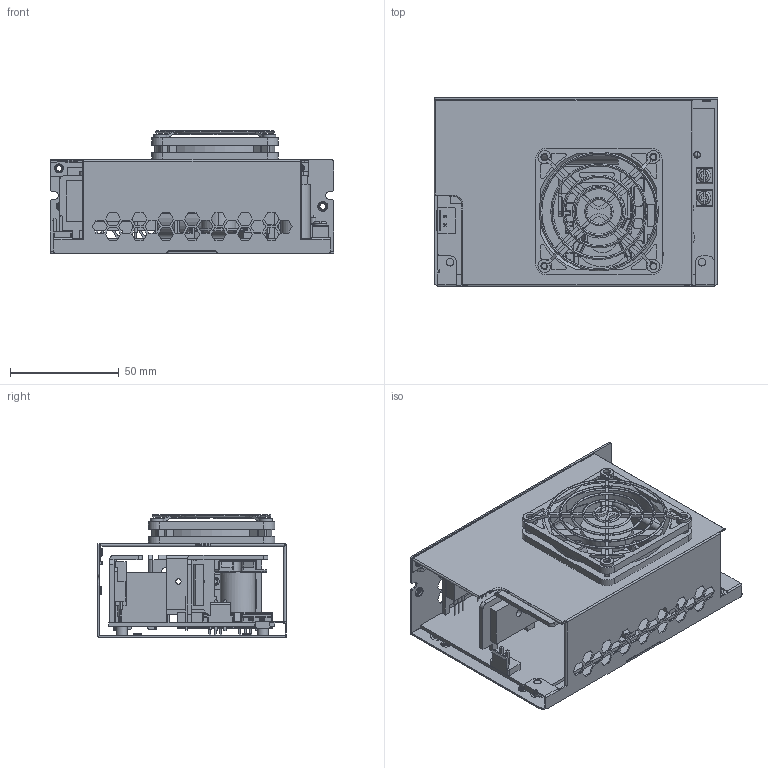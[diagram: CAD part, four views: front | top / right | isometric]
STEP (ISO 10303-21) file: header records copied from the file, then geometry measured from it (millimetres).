
FILE_DESCRIPTION(('Creo Elements/Direct Modeling STEP Export'),'2;1');
FILE_NAME('400TF.stp','2021-05-20T11:03:55',(''),(''),'PTC Creo Elements/Direct Modeling STEP processor for AP214 (Solid Model)','PTC Creo Elements/Direct Modeling 19.0E 27-Jun-2016 (C) Parametric Technology GmbH','');
FILE_SCHEMA(('AUTOMOTIVE_DESIGN { 1 0 10303 214 1 1 1 1 }'));
Length unit declared in the file: millimetre
Products named in the file (47): pin.1.1.2.1; HS029; HS-029; p2.1; pin.1.1.2; hs-sz035; HS028; PIN2-2; HS3; hs-sz027; 散热片; MOS15.5x10.1.1.1.1.1.1.1.1; MOS15.5x10.1.1.1.1.1.1.1.2.1; MOS; p1; R.1; JS1120R.1.1; p1.1; 8; JS1120R.1; a1; 555.1; 555.1.1; 555.1.2; MOSTO3P; C5; T1; 零件; 247B-T; 946A-D; M3-5-1; BASE; 247A-D; CASE; PCBB; pcbA; PCBC; PCB; fan_a.1.1; FAN_4715KL40WB30_2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
Assembly tree (52 placements, depth 6):
  400TF.stp
    RPS-400N
      FAN-ALL.1
        FAN_4715KL40WB30_2
        fan_a.1.1
      PCB
        PCBC
          PCBC
        pcbA
        PCBB
      CASE
        247A-D
          BASE
            M3-5-1  x4
            946A-D
        247B-T
      零件
        T1
          T1
        C5
        MOSTO3P
        555.1.2
        555.1.1
        555.1
        a1
          JS1120R.1
            8  x2
            p1.1
          JS1120R.1.1
        R.1  x2
        p1
        MOS
          MOS15.5x10.1.1.1.1.1.1.1.2.1  x2
          MOS15.5x10.1.1.1.1.1.1.1.1
      散热片
        hs-sz027
          HS3
          PIN2-2
        HS028
          pin.1.1.2
          p2.1
        hs-sz035
          pin.1.1.2
          p2.1
        HS-029
          HS029
          pin.1.1.2.1
Bounding box: 130 x 86.63 x 56.24 mm (x, y, z)
Volume: 92423.3 mm3; surface area: 128308.4 mm2
Topology: 34 solids, 35 shells, 2346 faces, 6283 edges, 3959 vertices
Faces by surface type: plane 1229, cylinder 767, torus 225, bspline 53, sphere 48, cone 24
Entity records: 77530 total; most frequent: CARTESIAN_POINT 20909, ORIENTED_EDGE 11994, DIRECTION 11029, EDGE_CURVE 5997, VERTEX_POINT 3819, VECTOR 3717, LINE 3717, AXIS2_PLACEMENT_3D 3656
